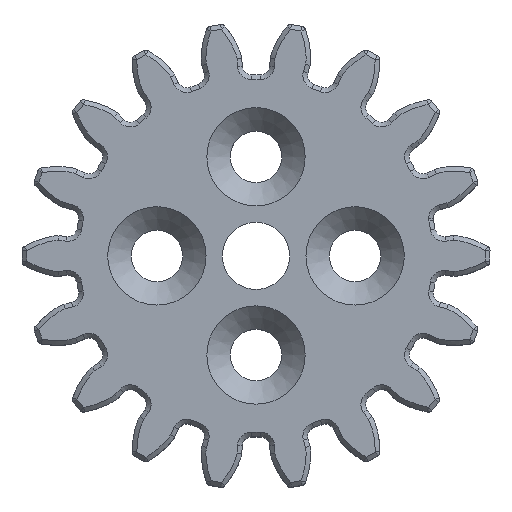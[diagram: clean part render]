
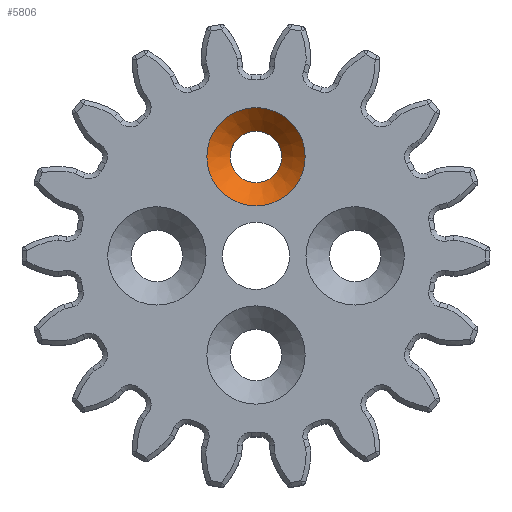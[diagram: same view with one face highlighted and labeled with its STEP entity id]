
A CAD part, top view. The second image highlights one B-rep face of the part: STEP entity #5806.
In plain terms, the highlighted conical face has half-angle 45 degrees and reference radius 3.15 mm.
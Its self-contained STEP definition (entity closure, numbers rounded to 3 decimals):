
#1634=VERTEX_POINT('',#6688);
#1786=VERTEX_POINT('',#7463);
#2157=CIRCLE('',#6181,3.15);
#2201=CIRCLE('',#6230,1.65);
#2356=EDGE_CURVE('',#1634,#1634,#2157,.T.);
#2508=EDGE_CURVE('',#1786,#1786,#2201,.T.);
#3399=ORIENTED_EDGE('',*,*,#2508,.T.);
#3400=ORIENTED_EDGE('',*,*,#2356,.T.);
#5025=EDGE_LOOP('',(#3399));
#5026=EDGE_LOOP('',(#3400));
#5421=FACE_BOUND('',#5025,.T.);
#5422=FACE_BOUND('',#5026,.T.);
#5806=ADVANCED_FACE('',(#5421,#5422),#15249,.F.);
#6181=AXIS2_PLACEMENT_3D('',#6687,#13860,#13861);
#6229=AXIS2_PLACEMENT_3D('',#7461,#14028,#14029);
#6230=AXIS2_PLACEMENT_3D('',#7462,#14030,#14031);
#6687=CARTESIAN_POINT('',(0.,6.35,7.999));
#6688=CARTESIAN_POINT('',(3.15,6.35,7.999));
#7461=CARTESIAN_POINT('',(0.,6.35,7.999));
#7462=CARTESIAN_POINT('',(0.,6.35,6.499));
#7463=CARTESIAN_POINT('',(1.65,6.35,6.499));
#13860=DIRECTION('',(0.,0.,1.));
#13861=DIRECTION('',(-3.15,0.,0.));
#14028=DIRECTION('',(0.,0.,1.));
#14029=DIRECTION('',(-3.15,0.,0.));
#14030=DIRECTION('',(0.,0.,-1.));
#14031=DIRECTION('',(-1.65,0.,0.));
#15249=CONICAL_SURFACE('',#6229,3.15,0.785);
